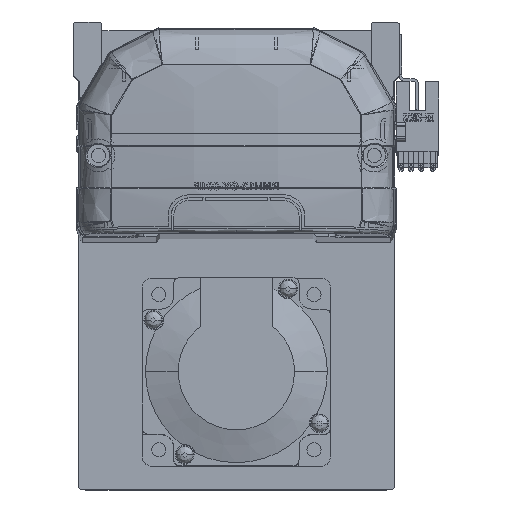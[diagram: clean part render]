
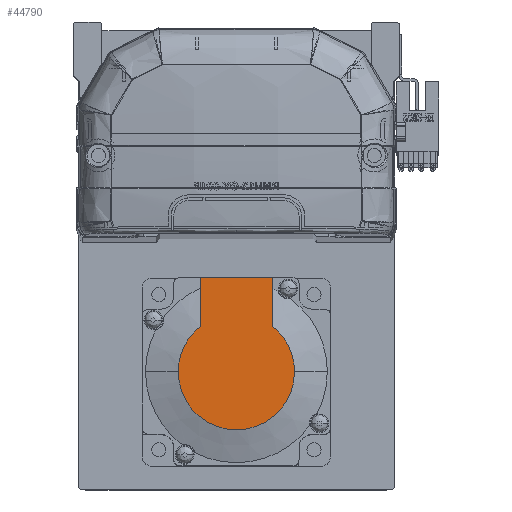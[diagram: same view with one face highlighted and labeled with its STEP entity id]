
A CAD part, top view. The second image highlights one B-rep face of the part: STEP entity #44790.
In plain terms, the highlighted planar face has unit normal (0, 0, 1) as drawn and (-1, 0, 0) by its records, which use the part's own axes.
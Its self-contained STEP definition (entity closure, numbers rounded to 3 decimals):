
#389 = DIRECTION ( 'NONE',  ( 0., -1., 0. ) ) ;
#2168 = DIRECTION ( 'NONE',  ( -1., 0., 0. ) ) ;
#2439 = EDGE_CURVE ( 'NONE', #48926, #53089, #59321, .T. ) ;
#2777 = CIRCLE ( 'NONE', #43981, 18.538 ) ;
#3380 = DIRECTION ( 'NONE',  ( 0., 0., 1. ) ) ;
#4174 = LINE ( 'NONE', #40950, #39585 ) ;
#8308 = EDGE_LOOP ( 'NONE', ( #35584, #59646, #23136, #11872, #17868, #55573 ) ) ;
#8378 = DIRECTION ( 'NONE',  ( 0., -1., 0. ) ) ;
#8769 = EDGE_CURVE ( 'NONE', #53089, #34619, #4174, .T. ) ;
#10244 = PLANE ( 'NONE',  #41143 ) ;
#11872 = ORIENTED_EDGE ( 'NONE', *, *, #18198, .T. ) ;
#12876 = VERTEX_POINT ( 'NONE', #30530 ) ;
#13611 = CARTESIAN_POINT ( 'NONE',  ( -79., 0., 0. ) ) ;
#14209 = DIRECTION ( 'NONE',  ( -1., 0., 0. ) ) ;
#14278 = AXIS2_PLACEMENT_3D ( 'NONE', #44250, #2168, #25105 ) ;
#17260 = VERTEX_POINT ( 'NONE', #56492 ) ;
#17324 = EDGE_CURVE ( 'NONE', #48926, #12876, #22832, .T. ) ;
#17868 = ORIENTED_EDGE ( 'NONE', *, *, #8769, .F. ) ;
#18198 = EDGE_CURVE ( 'NONE', #38705, #34619, #2777, .T. ) ;
#18907 = DIRECTION ( 'NONE',  ( 0., 0., -1. ) ) ;
#20462 = CARTESIAN_POINT ( 'NONE',  ( -79., 30., -11.45 ) ) ;
#22832 = LINE ( 'NONE', #56908, #38315 ) ;
#23136 = ORIENTED_EDGE ( 'NONE', *, *, #43740, .T. ) ;
#25105 = DIRECTION ( 'NONE',  ( 0., 0., -1. ) ) ;
#27318 = CARTESIAN_POINT ( 'NONE',  ( -79., 14.579, 11.45 ) ) ;
#30530 = CARTESIAN_POINT ( 'NONE',  ( -79., 14.579, -11.45 ) ) ;
#34339 = DIRECTION ( 'NONE',  ( -1., 0., 0. ) ) ;
#34619 = VERTEX_POINT ( 'NONE', #27318 ) ;
#35338 = CARTESIAN_POINT ( 'NONE',  ( -79., 30., 11.45 ) ) ;
#35584 = ORIENTED_EDGE ( 'NONE', *, *, #17324, .T. ) ;
#37653 = CARTESIAN_POINT ( 'NONE',  ( -79., 0., 0. ) ) ;
#38315 = VECTOR ( 'NONE', #389, 1000. ) ;
#38705 = VERTEX_POINT ( 'NONE', #59872 ) ;
#39042 = CIRCLE ( 'NONE', #48370, 18.538 ) ;
#39585 = VECTOR ( 'NONE', #8378, 1000. ) ;
#40950 = CARTESIAN_POINT ( 'NONE',  ( -79., 0., 11.45 ) ) ;
#41143 = AXIS2_PLACEMENT_3D ( 'NONE', #52930, #34339, #57283 ) ;
#42234 = DIRECTION ( 'NONE',  ( 0., 0., -1. ) ) ;
#43740 = EDGE_CURVE ( 'NONE', #17260, #38705, #55691, .T. ) ;
#43981 = AXIS2_PLACEMENT_3D ( 'NONE', #37653, #56432, #18907 ) ;
#44250 = CARTESIAN_POINT ( 'NONE',  ( -79., 0., 0. ) ) ;
#44790 = ADVANCED_FACE ( 'NONE', ( #55540 ), #10244, .T. ) ;
#45642 = CARTESIAN_POINT ( 'NONE',  ( -79., 30., 27. ) ) ;
#46737 = VECTOR ( 'NONE', #3380, 1000. ) ;
#48370 = AXIS2_PLACEMENT_3D ( 'NONE', #13611, #14209, #42234 ) ;
#48769 = EDGE_CURVE ( 'NONE', #12876, #17260, #39042, .T. ) ;
#48926 = VERTEX_POINT ( 'NONE', #20462 ) ;
#52930 = CARTESIAN_POINT ( 'NONE',  ( -79., -9.269, 0. ) ) ;
#53089 = VERTEX_POINT ( 'NONE', #35338 ) ;
#55540 = FACE_OUTER_BOUND ( 'NONE', #8308, .T. ) ;
#55573 = ORIENTED_EDGE ( 'NONE', *, *, #2439, .F. ) ;
#55691 = CIRCLE ( 'NONE', #14278, 18.538 ) ;
#56432 = DIRECTION ( 'NONE',  ( -1., 0., 0. ) ) ;
#56492 = CARTESIAN_POINT ( 'NONE',  ( -79., 0., -18.538 ) ) ;
#56908 = CARTESIAN_POINT ( 'NONE',  ( -79., -9.269, -11.45 ) ) ;
#57283 = DIRECTION ( 'NONE',  ( 0., 0., 1. ) ) ;
#59321 = LINE ( 'NONE', #45642, #46737 ) ;
#59646 = ORIENTED_EDGE ( 'NONE', *, *, #48769, .T. ) ;
#59872 = CARTESIAN_POINT ( 'NONE',  ( -79., 0., 18.538 ) ) ;
